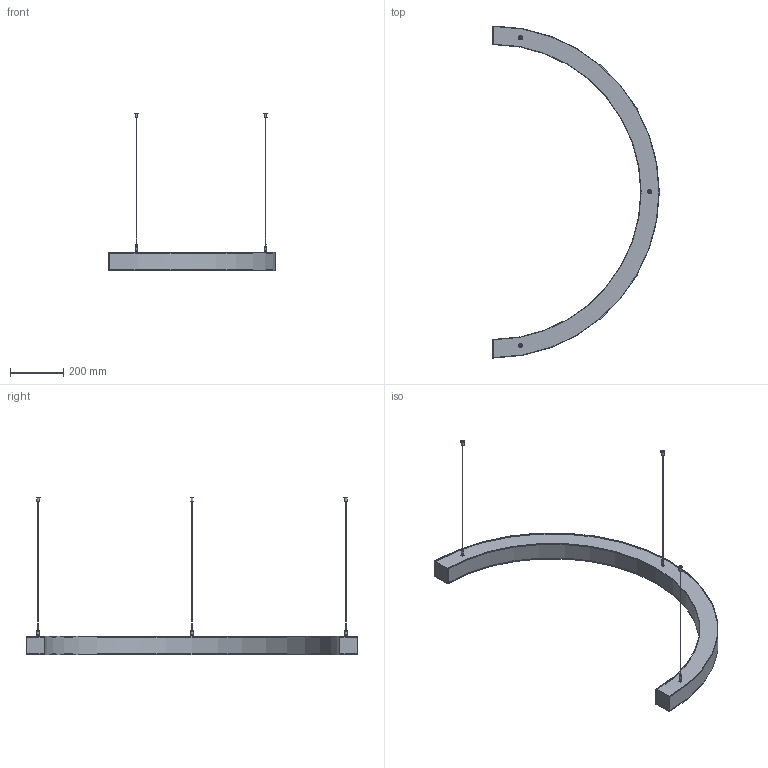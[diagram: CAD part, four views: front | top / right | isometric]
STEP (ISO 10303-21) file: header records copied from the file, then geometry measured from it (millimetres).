
FILE_DESCRIPTION(('STEP AP203'), '1');
FILE_NAME('Half RING 1250mm', '', ('UNSPECIFIED'), ('UNSPECIFIED'), 'C3D Converter', 'C3D Toolkit', '');
FILE_SCHEMA(('CONFIG_CONTROL_DESIGN'));
Length unit declared in the file: millimetre
Assembly tree (13 placements, depth 4):
  (unnamed)
    (unnamed)
    (unnamed)
    (unnamed)
    (unnamed)  x2
    (unnamed)  x3
      (unnamed)
        (unnamed)
        (unnamed)
      (unnamed)
      (unnamed)
Bounding box: 627.5 x 1250 x 593 mm (x, y, z)
Volume: 843079 mm3; surface area: 1140532.1 mm2
Topology: 18 solids, 18 shells, 163 faces, 315 edges, 209 vertices
Faces by surface type: plane 111, cylinder 49, cone 3
Full cylindrical faces by diameter (mm): 2 x3, 2.5 x3, 4 x3, 4.5 x3, 4.7 x3, 5 x6, 6 x3, 8.8 x3, 9 x6, 11 x3, 15 x3
Entity records: 2699 total; most frequent: DIRECTION 380, CARTESIAN_POINT 333, ORIENTED_EDGE 278, AXIS2_PLACEMENT_3D 150, EDGE_CURVE 139, EDGE_LOOP 108, VERTEX_POINT 103, LINE 80
